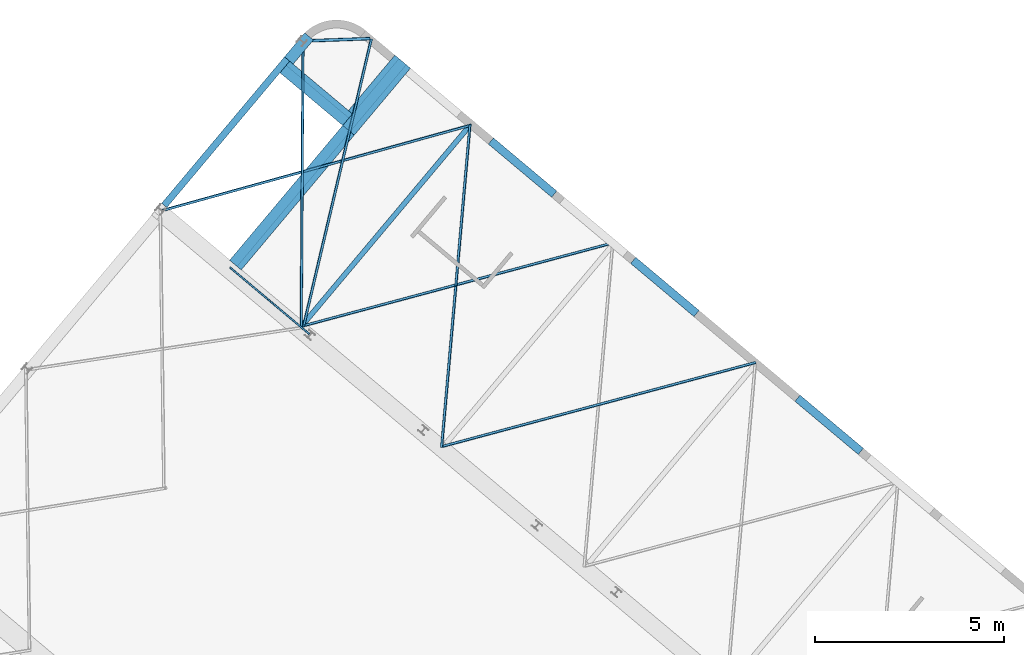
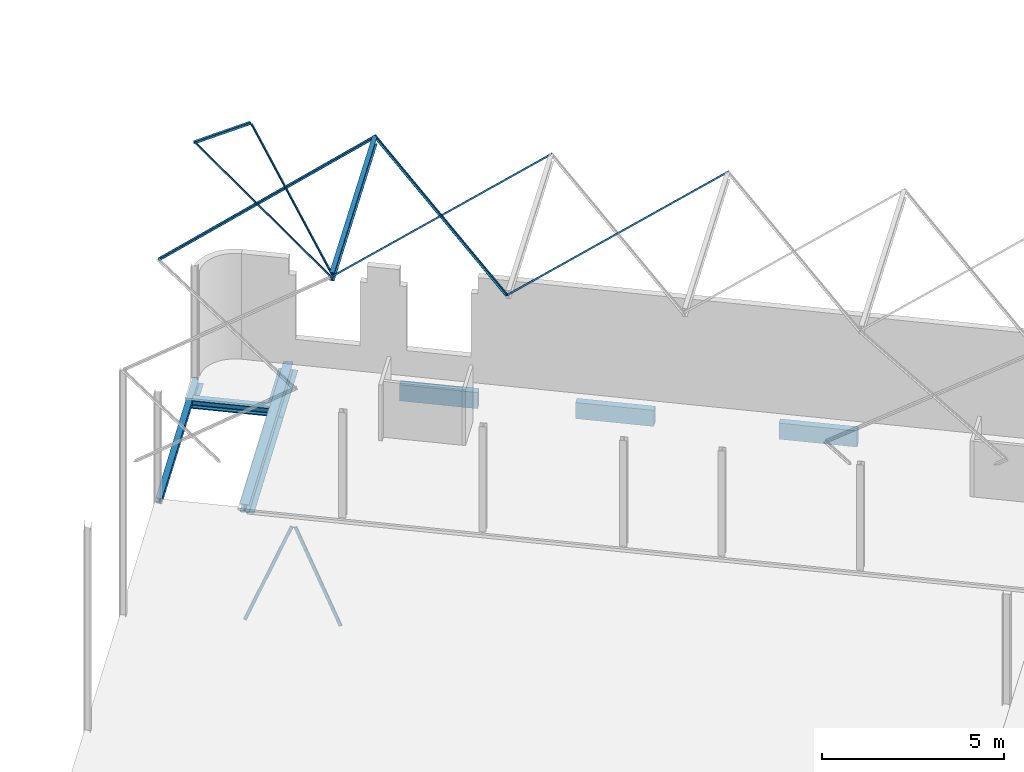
# One storey, part 17 of 25: 20 beams.
"""IFC2X3 building model written with IfcOpenShell, lengths in millimetres."""

from ifc_helpers import new_model, entity, si_unit, converted_unit, derived_unit, direction, frame, frame_2d, origin, place, context, subcontext, project, spatial, polyline, circle_curve, parameter, trimmed, segment, composite_curve, rectangle, i_section, outline, extrude, material, type_object, element, save


model = new_model("IFC2X3")

# Units and contexts
model_context = context("Model", 3, precision=0.01, world=origin(), true_north=direction((6.123031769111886e-17, 1.0)))
body_context = subcontext(model_context, "Body", "Model", "MODEL_VIEW")
ifc_project = project(units=[si_unit("LENGTHUNIT", "METRE", prefix="MILLI"), si_unit("AREAUNIT", "SQUARE_METRE"), si_unit("VOLUMEUNIT", "CUBIC_METRE"), derived_unit("MASSDENSITYUNIT", [(si_unit("MASSUNIT", "GRAM", prefix="KILO"), 1), (si_unit("LENGTHUNIT", "METRE"), -3)]), si_unit("MASSUNIT", "GRAM", prefix="KILO"), converted_unit("PLANEANGLEUNIT", "DEGREE", entity("IfcPlaneAngleMeasure", 0.017453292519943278), si_unit("PLANEANGLEUNIT", "RADIAN"), dimensions=[0, 0, 0, 0, 0, 0, 0])], contexts=[model_context])

# Site, building, storey
site_placement = place(None, origin())
site = spatial("IfcSite", under=ifc_project, at=site_placement, Name="Default", CompositionType="ELEMENT")
building_placement = place(site_placement, origin())
building = spatial("IfcBuilding", under=site, at=building_placement, Name="AT constructie", CompositionType="ELEMENT")
storey_placement = place(building_placement, frame((0.0, 0.0, 3864.0)))
storey = spatial("IfcBuildingStorey", under=building, at=storey_placement, Name="01 eerste verdieping", CompositionType="ELEMENT", Elevation=3864.0)

# Beams
ifc_material_1 = material(Name="f2_beton_prefab_gen")
beam_type_1 = type_object("IfcBeamType", Name="balk vierkant_gen_214x544 pbl", PredefinedType="NOTDEFINED")
beam_1_placement = place(storey_placement, frame((29514.597322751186, 54981.162075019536, 0.0), z_axis=(0.0, 0.0, 1.0), x_axis=(0.7660444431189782, -0.6427876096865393, 0.0)))
element("IfcBeam", 1, at=beam_1_placement, inside=storey, type_object=beam_type_1, material=ifc_material_1, Name="NLRS_28_SF_LIB_balk vierkant prefab_gen_AT:balk vierkant_gen_214x544 pbl", ObjectType="NLRS_28_SF_LIB_balk vierkant prefab_gen_AT:balk vierkant_gen_214x544 pbl", context=body_context, shape_type="SweptSolid", body=[
    extrude(rectangle(XDim=544.0000000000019, YDim=213.9999999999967, at=frame_2d((0.0, 4.710898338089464e-12), x_axis=(1.0, 0.0))), frame((-190.0, -107.0, -642.0), z_axis=(1.0, 0.0, 0.0), x_axis=(0.0, 0.0, -1.0)), (0.0, 0.0, 1.0), 2190.000000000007),
])
beam_2_placement = place(storey_placement, frame((33283.53598289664, 51818.6470353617, 0.0), z_axis=(0.0, 0.0, 1.0), x_axis=(0.7660444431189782, -0.6427876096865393, 0.0)))
element("IfcBeam", 2, at=beam_2_placement, inside=storey, type_object=beam_type_1, material=ifc_material_1, Name="NLRS_28_SF_LIB_balk vierkant prefab_gen_AT:balk vierkant_gen_214x544 pbl", ObjectType="NLRS_28_SF_LIB_balk vierkant prefab_gen_AT:balk vierkant_gen_214x544 pbl", context=body_context, shape_type="SweptSolid", body=[
    extrude(rectangle(XDim=544.0000000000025, YDim=213.9999999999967, at=frame_2d((2.8421709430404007e-13, 4.710898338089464e-12), x_axis=(1.0, 0.0))), frame((-190.0, -107.0, -642.0), z_axis=(1.0, 0.0, 0.0), x_axis=(0.0, 0.0, -1.0)), (0.0, 0.0, 1.0), 2190.000000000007),
])
beam_3_placement = place(storey_placement, frame((37634.66721355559, 48167.614424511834, 0.0), z_axis=(0.0, 0.0, 1.0), x_axis=(0.7660444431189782, -0.6427876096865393, 0.0)))
element("IfcBeam", 3, at=beam_3_placement, inside=storey, type_object=beam_type_1, material=ifc_material_1, Name="NLRS_28_SF_LIB_balk vierkant prefab_gen_AT:balk vierkant_gen_214x544 pbl", ObjectType="NLRS_28_SF_LIB_balk vierkant prefab_gen_AT:balk vierkant_gen_214x544 pbl", context=body_context, shape_type="SweptSolid", body=[
    extrude(rectangle(XDim=544.0000000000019, YDim=213.9999999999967, at=frame_2d((0.0, 4.710898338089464e-12), x_axis=(1.0, 0.0))), frame((-190.0, -107.0, -642.0), z_axis=(1.0, 0.0, 0.0), x_axis=(0.0, 0.0, -1.0)), (0.0, 0.0, 1.0), 2190.00000000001),
])
ifc_material_2 = material(Name="h2_staal_S355")
beam_type_2 = type_object("IfcBeamType", Name="balk HE_gen_HEB260", PredefinedType="NOTDEFINED")
beam_4_placement = place(storey_placement, frame((23728.97497160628, 56984.866142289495, 0.0), z_axis=(0.0, 0.0, 1.0), x_axis=(0.7660444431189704, -0.6427876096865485, 0.0)))
element("IfcBeam", 4, at=beam_4_placement, inside=storey, type_object=beam_type_2, material=ifc_material_2, Name="NLRS_28_SF_LIB_balk HEB_gen_AT:balk HE_gen_HEB260", ObjectType="NLRS_28_SF_LIB_balk HEB_gen_AT:balk HE_gen_HEB260", context=body_context, shape_type="SweptSolid", body=[
    extrude(i_section(OverallWidth=259.9999999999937, OverallDepth=259.9999999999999, WebThickness=10.000000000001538, FlangeThickness=17.49999999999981, FilletRadius=23.999999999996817, at=frame_2d((2.7000623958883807e-13, 0.0), x_axis=(0.0, 1.0))), frame((90.0, 0.0, -240.0), z_axis=(1.0, 0.0, 0.0), x_axis=(0.0, 0.0, -1.0)), (0.0, 0.0, 1.0), 2169.9999999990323),
])
beam_5_placement = place(storey_placement, frame((26963.669327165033, 57121.644815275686, 0.0), z_axis=(0.0, 0.0, 1.0), x_axis=(-0.6427876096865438, -0.7660444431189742, 0.0)))
element("IfcBeam", 5, at=beam_5_placement, inside=storey, type_object=beam_type_2, material=ifc_material_2, Name="NLRS_28_SF_LIB_balk HEB_gen_AT:balk HE_gen_HEB260", ObjectType="NLRS_28_SF_LIB_balk HEB_gen_AT:balk HE_gen_HEB260", context=body_context, shape_type="SweptSolid", body=[
    extrude(i_section(OverallWidth=260.00000000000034, OverallDepth=259.9999999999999, WebThickness=9.999999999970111, FlangeThickness=17.49999999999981, FilletRadius=23.999999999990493, at=frame_2d((8.100187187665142e-13, 0.0), x_axis=(0.0, 1.0))), frame((0.0, 0.0, -240.0), z_axis=(1.0, 0.0, 0.0), x_axis=(0.0, 0.0, -1.0)), (0.0, 0.0, 1.0), 6975.000000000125),
])
beam_type_3 = type_object("IfcBeamType", Name="balk strip liggend_gen_400x15", PredefinedType="NOTDEFINED")
beam_6_placement = place(storey_placement, frame((23773.970104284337, 57038.48925330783, 0.0), z_axis=(0.0, 0.0, 1.0), x_axis=(0.7660444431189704, -0.6427876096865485, 0.0)))
element("IfcBeam", 6, at=beam_6_placement, inside=storey, type_object=beam_type_3, material=ifc_material_2, Name="NLRS_28_SF_LIB_balk strip_gen_AT:balk strip liggend_gen_400x15", ObjectType="NLRS_28_SF_LIB_balk strip_gen_AT:balk strip liggend_gen_400x15", context=body_context, shape_type="SweptSolid", body=[
    extrude(rectangle(XDim=14.999999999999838, YDim=400.0000000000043, at=frame_2d((0.0, 3.311129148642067e-12), x_axis=(1.0, 0.0))), frame((90.0, 0.0, -377.50000000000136), z_axis=(1.0, 0.0, 0.0), x_axis=(0.0, 0.0, -1.0)), (0.0, 0.0, 1.0), 2169.9999999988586),
])
beam_7_placement = place(storey_placement, frame((25529.88191241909, 55304.02284485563, 0.0), z_axis=(0.0, 0.0, 1.0), x_axis=(-0.6427876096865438, -0.7660444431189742, 0.0)))
element("IfcBeam", 7, at=beam_7_placement, inside=storey, type_object=beam_type_3, material=ifc_material_2, Name="NLRS_28_SF_LIB_balk strip_gen_AT:balk strip liggend_gen_400x15", ObjectType="NLRS_28_SF_LIB_balk strip_gen_AT:balk strip liggend_gen_400x15", context=body_context, shape_type="SweptSolid", body=[
    extrude(rectangle(XDim=14.999999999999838, YDim=399.9999999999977, at=frame_2d((0.0, 1.6484591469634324e-12), x_axis=(1.0, 0.0))), frame((0.0, 0.0, -377.50000000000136), z_axis=(1.0, 0.0, 0.0), x_axis=(0.0, 0.0, -1.0)), (0.0, 0.0, 1.0), 4661.000004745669),
])
beam_type_4 = type_object("IfcBeamType", Name="balk strip liggend_gen_300x15", PredefinedType="NOTDEFINED")
beam_8_placement = place(storey_placement, frame((23948.490291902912, 57153.13088611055, 0.0), z_axis=(0.0, 0.0, 1.0), x_axis=(0.6427876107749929, 0.7660444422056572, 0.0)))
element("IfcBeam", 8, at=beam_8_placement, inside=storey, type_object=beam_type_4, material=ifc_material_2, Name="NLRS_28_SF_LIB_balk strip_gen_AT:balk strip liggend_gen_300x15", ObjectType="NLRS_28_SF_LIB_balk strip_gen_AT:balk strip liggend_gen_300x15", context=body_context, shape_type="SweptSolid", body=[
    extrude(rectangle(XDim=14.999999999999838, YDim=300.00000000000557, at=frame_2d((0.0, -6.0822458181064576e-12), x_axis=(1.0, 0.0))), frame((0.0, 0.0, -377.5000000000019), z_axis=(1.0, 0.0, 0.0), x_axis=(0.0, 0.0, -1.0)), (0.0, 0.0, 1.0), 832.254358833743),
])
beam_type_5 = type_object("IfcBeamType", Name="balk strip liggend_gen_540x15", PredefinedType="NOTDEFINED")
beam_9_placement = place(storey_placement, frame((25476.25880140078, 55349.01797753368, 0.0), z_axis=(0.0, 0.0, 1.0), x_axis=(0.642787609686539, 0.7660444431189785, 0.0)))
element("IfcBeam", 9, at=beam_9_placement, inside=storey, type_object=beam_type_5, material=ifc_material_2, Name="NLRS_28_SF_LIB_balk strip_gen_AT:balk strip liggend_gen_540x15", ObjectType="NLRS_28_SF_LIB_balk strip_gen_AT:balk strip liggend_gen_540x15", context=body_context, shape_type="SweptSolid", body=[
    extrude(rectangle(XDim=14.999999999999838, YDim=540.0000000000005, at=frame_2d((0.0, -3.325340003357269e-12), x_axis=(1.0, 0.0))), frame((0.0, 0.0, -377.5000000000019), z_axis=(1.0, 0.0, 0.0), x_axis=(0.0, 0.0, -1.0)), (0.0, 0.0, 1.0), 2313.9999952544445),
])
beam_type_6 = type_object("IfcBeamType", Name="balk HE_gen_HEA180", PredefinedType="NOTDEFINED")
beam_10_placement = place(storey_placement, frame((20649.379530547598, 53314.747211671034, 0.0), z_axis=(0.0, 0.0, 1.0), x_axis=(0.6427876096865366, 0.7660444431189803, 0.0)))
element("IfcBeam", 10, at=beam_10_placement, inside=storey, type_object=beam_type_6, material=ifc_material_2, Name="NLRS_28_SF_LIB_balk HEA_gen_AT:balk HE_gen_HEA180", ObjectType="NLRS_28_SF_LIB_balk HEA_gen_AT:balk HE_gen_HEA180", context=body_context, shape_type="SweptSolid", body=[
    extrude(i_section(OverallWidth=179.99999999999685, OverallDepth=171.0000000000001, WebThickness=6.000000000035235, FlangeThickness=9.500000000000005, FilletRadius=15.000000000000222, at=frame_2d((0.0, -6.0964566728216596e-12), x_axis=(0.0, 1.0))), frame((0.0, 0.0, -284.4999999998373), z_axis=(1.0, 0.0, 0.0), x_axis=(0.0, 0.0, -1.0)), (0.0, 0.0, 1.0), 5893.254363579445),
])
beam_type_7 = type_object("IfcBeamType", Name="balk_gen_K100x50x4", PredefinedType="NOTDEFINED")
beam_11_placement = place(storey_placement, frame((23388.79613923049, 50833.346725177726, -572.4214516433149), z_axis=(0.9586345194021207, 0.07091725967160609, -0.2756639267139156), x_axis=(-0.2846398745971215, 0.23884121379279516, -0.9284045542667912)))
element("IfcBeam", 11, at=beam_11_placement, inside=storey, type_object=beam_type_7, material=ifc_material_2, Name="NLRS_28_SF_LIB_balk koker ongelijk_gen_AT:balk_gen_K100x50x4", ObjectType="NLRS_28_SF_LIB_balk koker ongelijk_gen_AT:balk_gen_K100x50x4", context=body_context, shape_type="SweptSolid", body=[
    extrude(outline(composite_curve([segment(trimmed(circle_curve(frame_2d((17.0, 42.0), x_axis=(1.0, 0.0)), 8.0), [parameter(359.99999999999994)], [parameter(89.99999999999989)], True, "PARAMETER"), True, "CONTINUOUS"), segment(polyline([(17.0, 50.0), (-17.0, 50.0)]), True, "CONTINUOUS"), segment(trimmed(circle_curve(frame_2d((-17.0, 42.0), x_axis=(1.0, 0.0)), 8.0), [parameter(90.00000000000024)], [parameter(180.00000000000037)], True, "PARAMETER"), True, "CONTINUOUS"), segment(polyline([(-25.0, 42.0), (-25.0, -42.0)]), True, "CONTINUOUS"), segment(trimmed(circle_curve(frame_2d((-17.0, -42.0), x_axis=(1.0, 0.0)), 8.0), [parameter(180.0)], [parameter(269.9999999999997)], True, "PARAMETER"), True, "CONTINUOUS"), segment(polyline([(-17.0, -50.0), (17.0, -50.0)]), True, "CONTINUOUS"), segment(trimmed(circle_curve(frame_2d((17.0, -42.0), x_axis=(1.0, 0.0)), 8.0), [parameter(270.00000000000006)], [parameter(2.544443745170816e-13)], True, "PARAMETER"), True, "CONTINUOUS"), segment(polyline([(25.0, -42.0), (25.0, 42.0)]), True, "CONTINUOUS")], self_intersect=False), holes=[composite_curve([segment(polyline([(-17.0, 46.0), (17.0, 46.0)]), True, "CONTINUOUS"), segment(trimmed(circle_curve(frame_2d((17.0, 42.0), x_axis=(1.0, 0.0)), 4.0), [parameter(0.0)], [parameter(90.00000000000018)], True, "PARAMETER"), False, "CONTINUOUS"), segment(polyline([(21.0, 42.0), (21.0, -42.0)]), True, "CONTINUOUS"), segment(trimmed(circle_curve(frame_2d((17.0, -42.0), x_axis=(1.0, 0.0)), 4.0), [parameter(269.9999999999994)], [parameter(359.9999999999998)], True, "PARAMETER"), False, "CONTINUOUS"), segment(polyline([(17.0, -46.0), (-17.0, -46.0)]), True, "CONTINUOUS"), segment(trimmed(circle_curve(frame_2d((-17.0, -42.0), x_axis=(1.0, 0.0)), 4.0), [parameter(180.00000000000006)], [parameter(269.9999999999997)], True, "PARAMETER"), False, "CONTINUOUS"), segment(polyline([(-21.0, -42.0), (-21.0, 42.0)]), True, "CONTINUOUS"), segment(trimmed(circle_curve(frame_2d((-17.0, 42.0), x_axis=(1.0, 0.0)), 4.0), [parameter(89.99999999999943)], [parameter(179.99999999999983)], True, "PARAMETER"), False, "CONTINUOUS")], self_intersect=False)]), frame((0.0, -33.52620819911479, 37.094384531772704), z_axis=(1.0, 0.0, 0.0), x_axis=(0.0, -0.7418876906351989, -0.6705241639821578)), (0.0, 0.0, 1.0), 3530.7396224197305),
])
beam_12_placement = place(storey_placement, frame((23535.111484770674, 50710.57357269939, -572.4581109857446), z_axis=(0.9588011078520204, 0.07062539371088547, 0.2751590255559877), x_axis=(0.28407822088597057, -0.2383699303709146, -0.9286976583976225)))
element("IfcBeam", 12, at=beam_12_placement, inside=storey, type_object=beam_type_7, material=ifc_material_2, Name="NLRS_28_SF_LIB_balk koker ongelijk_gen_AT:balk_gen_K100x50x4", ObjectType="NLRS_28_SF_LIB_balk koker ongelijk_gen_AT:balk_gen_K100x50x4", context=body_context, shape_type="SweptSolid", body=[
    extrude(outline(composite_curve([segment(polyline([(-42.0, -25.0), (42.0, -25.0)]), True, "CONTINUOUS"), segment(trimmed(circle_curve(frame_2d((42.0, -17.0), x_axis=(0.0, -1.0)), 8.0), [parameter(359.9999999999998)], [parameter(89.99999999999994)], True, "PARAMETER"), True, "CONTINUOUS"), segment(polyline([(50.0, -17.0), (50.0, 17.0)]), True, "CONTINUOUS"), segment(trimmed(circle_curve(frame_2d((42.0, 17.0), x_axis=(0.0, -1.0)), 8.0), [parameter(90.0000000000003)], [parameter(180.0)], True, "PARAMETER"), True, "CONTINUOUS"), segment(polyline([(42.0, 25.0), (-42.0, 25.0)]), True, "CONTINUOUS"), segment(trimmed(circle_curve(frame_2d((-42.0, 17.0), x_axis=(0.0, -1.0)), 8.0), [parameter(179.99999999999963)], [parameter(269.9999999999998)], True, "PARAMETER"), True, "CONTINUOUS"), segment(polyline([(-50.0, 17.0), (-50.0, -17.0)]), True, "CONTINUOUS"), segment(trimmed(circle_curve(frame_2d((-42.0, -17.0), x_axis=(0.0, -1.0)), 8.0), [parameter(270.0000000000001)], [parameter(5.088887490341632e-14)], True, "PARAMETER"), True, "CONTINUOUS")], self_intersect=False), holes=[composite_curve([segment(trimmed(circle_curve(frame_2d((-42.0, 17.0), x_axis=(0.0, -1.0)), 4.0), [parameter(180.00000000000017)], [parameter(270.00000000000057)], True, "PARAMETER"), False, "CONTINUOUS"), segment(polyline([(-42.0, 21.0), (42.0, 21.0)]), True, "CONTINUOUS"), segment(trimmed(circle_curve(frame_2d((42.0, 17.0), x_axis=(0.0, -1.0)), 4.0), [parameter(90.0000000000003)], [parameter(179.99999999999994)], True, "PARAMETER"), False, "CONTINUOUS"), segment(polyline([(46.0, 17.0), (46.0, -17.0)]), True, "CONTINUOUS"), segment(trimmed(circle_curve(frame_2d((42.0, -17.0), x_axis=(0.0, -1.0)), 4.0), [parameter(2.544443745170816e-13)], [parameter(90.00000000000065)], True, "PARAMETER"), False, "CONTINUOUS"), segment(polyline([(42.0, -21.0), (-42.0, -21.0)]), True, "CONTINUOUS"), segment(trimmed(circle_curve(frame_2d((-42.0, -17.0), x_axis=(0.0, -1.0)), 4.0), [parameter(269.99999999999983)], [parameter(0.0)], True, "PARAMETER"), False, "CONTINUOUS"), segment(polyline([(-46.0, -17.0), (-46.0, 17.0)]), True, "CONTINUOUS")], self_intersect=False)]), frame((0.0, 33.52038313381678, -37.099648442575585), z_axis=(1.0, 0.0, 0.0), x_axis=(0.0, 0.6704076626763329, -0.7419929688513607)), (0.0, 0.0, 1.0), 3412.2439070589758),
])
beam_type_8 = type_object("IfcBeamType", Name="balk IPE_gen_270", PredefinedType="NOTDEFINED")
beam_13_placement = place(storey_placement, frame((24323.06956026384, 50163.17718065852, 7999.44544442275), z_axis=(0.010283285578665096, 0.012255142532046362, 0.9998720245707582), x_axis=(0.6427053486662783, 0.7659464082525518, -0.015997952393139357)))
element("IfcBeam", 13, at=beam_13_placement, inside=storey, type_object=beam_type_8, material=ifc_material_2, Name="NLRS_28_SF_LIB_balk IPE_gen_AT:balk IPE_gen_270", ObjectType="NLRS_28_SF_LIB_balk IPE_gen_AT:balk IPE_gen_270", context=body_context, shape_type="SweptSolid", body=[
    extrude(outline(composite_curve([segment(polyline([(124.7999999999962, -67.5000000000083), (135.0, -67.50000000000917)]), True, "CONTINUOUS"), segment(polyline([(135.0, -67.50000000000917), (135.0, 67.49999999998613)]), True, "CONTINUOUS"), segment(polyline([(135.0, 67.49999999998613), (124.80000000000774, 67.49999999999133)]), True, "CONTINUOUS"), segment(polyline([(124.80000000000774, 67.49999999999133), (124.80000000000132, 18.299999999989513)]), True, "CONTINUOUS"), segment(trimmed(circle_curve(frame_2d((109.80000000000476, 18.299999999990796), x_axis=(1.0, 0.0)), 14.999999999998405), [parameter(269.9999999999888)], [parameter(0.0)], True, "PARAMETER"), False, "CONTINUOUS"), segment(polyline([(109.79999999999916, 3.2999999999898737), (-109.79999999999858, 3.3000000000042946)]), True, "CONTINUOUS"), segment(trimmed(circle_curve(frame_2d((-109.79999999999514, 18.300000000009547), x_axis=(0.0, -1.0)), 15.00000000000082), [parameter(270.000000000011)], [parameter(0.0)], True, "PARAMETER"), False, "CONTINUOUS"), segment(polyline([(-124.79999999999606, 18.30000000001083), (-124.79999999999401, 67.50000000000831)]), True, "CONTINUOUS"), segment(polyline([(-124.79999999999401, 67.50000000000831), (-135.0, 67.50000000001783)]), True, "CONTINUOUS"), segment(polyline([(-135.0, 67.50000000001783), (-135.0, -67.49999999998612)]), True, "CONTINUOUS"), segment(polyline([(-135.0, -67.49999999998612), (-124.80000000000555, -67.49999999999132)]), True, "CONTINUOUS"), segment(polyline([(-124.80000000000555, -67.49999999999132), (-124.79999999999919, -18.299999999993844)]), True, "CONTINUOUS"), segment(trimmed(circle_curve(frame_2d((-109.79999999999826, -18.299999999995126), x_axis=(-1.0, 0.0)), 15.000000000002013), [parameter(270.00000000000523)], [parameter(0.0)], True, "PARAMETER"), False, "CONTINUOUS"), segment(polyline([(-109.79999999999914, -3.299999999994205), (109.80000000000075, -3.300000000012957)]), True, "CONTINUOUS"), segment(trimmed(circle_curve(frame_2d((109.79999999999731, -18.300000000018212), x_axis=(0.0, 1.0)), 15.000000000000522), [parameter(270.000000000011)], [parameter(0.0)], True, "PARAMETER"), False, "CONTINUOUS"), segment(polyline([(124.79999999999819, -18.30000000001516), (124.7999999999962, -67.5000000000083)]), True, "CONTINUOUS")], self_intersect=False)), frame((14.860000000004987, 0.0, -135.0), z_axis=(1.0, 0.0, 0.0), x_axis=(0.0, 0.0, -1.0)), (0.0, 0.0, 1.0), 6830.20166621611),
])
beam_type_9 = type_object("IfcBeamType", Name="balk_gen_K80x80x4", PredefinedType="NOTDEFINED")
beam_14_placement = place(storey_placement, frame((24283.050141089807, 57667.74521157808, 7907.875706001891), z_axis=(0.01071002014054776, 0.0003843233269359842, 0.9999425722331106), x_axis=(0.9992993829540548, 0.03585932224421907, -0.01071691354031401)))
element("IfcBeam", 14, at=beam_14_placement, inside=storey, type_object=beam_type_9, material=ifc_material_2, Name="NLRS_28_SF_LIB_balk koker vierkant_gen_AT:balk_gen_K80x80x4", ObjectType="NLRS_28_SF_LIB_balk koker vierkant_gen_AT:balk_gen_K80x80x4", context=body_context, shape_type="SweptSolid", body=[
    extrude(outline(composite_curve([segment(polyline([(-31.0, -40.0), (31.0, -40.0)]), True, "CONTINUOUS"), segment(trimmed(circle_curve(frame_2d((31.0, -31.0), x_axis=(0.0, -1.0)), 9.0), [parameter(359.9999999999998)], [parameter(89.99999999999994)], True, "PARAMETER"), True, "CONTINUOUS"), segment(polyline([(40.0, -31.0), (40.0, 31.0)]), True, "CONTINUOUS"), segment(trimmed(circle_curve(frame_2d((31.0, 31.0), x_axis=(0.0, -1.0)), 9.0), [parameter(90.0000000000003)], [parameter(180.00000000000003)], True, "PARAMETER"), True, "CONTINUOUS"), segment(polyline([(31.0, 40.0), (-31.0, 40.0)]), True, "CONTINUOUS"), segment(trimmed(circle_curve(frame_2d((-31.0, 31.0), x_axis=(0.0, -1.0)), 9.0), [parameter(179.99999999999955)], [parameter(269.9999999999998)], True, "PARAMETER"), True, "CONTINUOUS"), segment(polyline([(-40.0, 31.0), (-40.0, -31.0)]), True, "CONTINUOUS"), segment(trimmed(circle_curve(frame_2d((-31.0, -31.0), x_axis=(0.0, -1.0)), 9.0), [parameter(270.0000000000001)], [parameter(1.0177774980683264e-13)], True, "PARAMETER"), True, "CONTINUOUS")], self_intersect=False), holes=[composite_curve([segment(trimmed(circle_curve(frame_2d((-31.0, 31.0), x_axis=(0.0, -1.0)), 5.0), [parameter(180.0000000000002)], [parameter(270.0000000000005)], True, "PARAMETER"), False, "CONTINUOUS"), segment(polyline([(-31.0, 36.0), (31.0, 36.0)]), True, "CONTINUOUS"), segment(trimmed(circle_curve(frame_2d((31.0, 31.0), x_axis=(0.0, -1.0)), 5.0), [parameter(90.0000000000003)], [parameter(179.99999999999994)], True, "PARAMETER"), False, "CONTINUOUS"), segment(polyline([(36.0, 31.0), (36.0, -31.0)]), True, "CONTINUOUS"), segment(trimmed(circle_curve(frame_2d((31.0, -31.0), x_axis=(0.0, -1.0)), 5.0), [parameter(2.0355549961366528e-13)], [parameter(90.00000000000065)], True, "PARAMETER"), False, "CONTINUOUS"), segment(polyline([(31.0, -36.0), (-31.0, -36.0)]), True, "CONTINUOUS"), segment(trimmed(circle_curve(frame_2d((-31.0, -31.0), x_axis=(0.0, -1.0)), 5.0), [parameter(269.99999999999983)], [parameter(1.5266662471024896e-13)], True, "PARAMETER"), False, "CONTINUOUS"), segment(polyline([(-36.0, -31.0), (-36.0, 31.0)]), True, "CONTINUOUS")], self_intersect=False)]), frame((0.0, -0.7127092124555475, -59.995766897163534), z_axis=(1.0, 0.0, 0.0), x_axis=(0.0, -0.011878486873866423, -0.9999294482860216)), (0.0, 0.0, 1.0), 1820.3054496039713),
])
beam_type_10 = type_object("IfcBeamType", Name="balk_gen_L70x70x7", PredefinedType="NOTDEFINED")
beam_15_placement = place(storey_placement, frame((20554.671889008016, 53197.989730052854, 8001.005093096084), z_axis=(0.012702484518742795, 0.0035152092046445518, 0.9999131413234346), x_axis=(0.9636931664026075, 0.26668665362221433, -0.013179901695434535)))
element("IfcBeam", 15, at=beam_15_placement, inside=storey, type_object=beam_type_10, material=ifc_material_2, Name="NLRS_28_SF_LIB_balk hoeklijn_gen_AT:balk_gen_L70x70x7", ObjectType="NLRS_28_SF_LIB_balk hoeklijn_gen_AT:balk_gen_L70x70x7", context=body_context, shape_type="SweptSolid", body=[
    extrude(outline(composite_curve([segment(polyline([(-26.444444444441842, -26.44444444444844), (43.55555555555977, -26.444444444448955)]), True, "CONTINUOUS"), segment(polyline([(43.55555555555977, -26.444444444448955), (43.55555555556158, -23.944444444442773)]), True, "CONTINUOUS"), segment(trimmed(circle_curve(frame_2d((39.05555555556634, -23.944444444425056), x_axis=(1.0, 0.0)), 4.499999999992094), [parameter(0.0)], [parameter(90.00000000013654)], True, "PARAMETER"), True, "CONTINUOUS"), segment(polyline([(39.05555555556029, -19.444444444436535), (-10.444444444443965, -19.444444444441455)]), True, "CONTINUOUS"), segment(trimmed(circle_curve(frame_2d((-10.444444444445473, -10.444444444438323), x_axis=(0.0, -1.0)), 8.999999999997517), [parameter(269.99999999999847)], [parameter(0.0)], True, "PARAMETER"), False, "CONTINUOUS"), segment(polyline([(-19.444444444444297, -10.444444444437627), (-19.44444444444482, 39.055555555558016)]), True, "CONTINUOUS"), segment(trimmed(circle_curve(frame_2d((-23.944444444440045, 39.05555555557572), x_axis=(1.0, 0.0)), 4.499999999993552), [parameter(0.0)], [parameter(90.00000000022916)], True, "PARAMETER"), True, "CONTINUOUS"), segment(polyline([(-23.944444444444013, 43.55555555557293), (-26.4444444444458, 43.5555555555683)]), True, "CONTINUOUS"), segment(polyline([(-26.444444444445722, 43.55555555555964), (-26.444444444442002, -26.444444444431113)]), True, "CONTINUOUS")], self_intersect=False)), frame((0.0, -20.02000287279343, -63.37660882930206), z_axis=(1.0, 0.0, 0.0), x_axis=(0.0, 0.009068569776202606, 0.9999588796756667)), (0.0, 0.0, 1.0), 8534.62223891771),
])
beam_16_placement = place(storey_placement, frame((24248.50433363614, 50074.31380394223, 8001.301490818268), z_axis=(7.987257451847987e-05, 0.012321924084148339, 0.9999240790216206), x_axis=(0.006481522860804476, 0.9999030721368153, -0.012322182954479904)))
element("IfcBeam", 16, at=beam_16_placement, inside=storey, type_object=beam_type_10, material=ifc_material_2, Name="NLRS_28_SF_LIB_balk hoeklijn_gen_AT:balk_gen_L70x70x7", ObjectType="NLRS_28_SF_LIB_balk hoeklijn_gen_AT:balk_gen_L70x70x7", context=body_context, shape_type="SweptSolid", body=[
    extrude(outline(composite_curve([segment(polyline([(-26.44444444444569, -26.44444444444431), (43.555555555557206, -26.444444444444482)]), True, "CONTINUOUS"), segment(polyline([(43.55555555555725, -26.44444444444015), (43.55555555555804, -23.94444444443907)]), True, "CONTINUOUS"), segment(trimmed(circle_curve(frame_2d((39.05555555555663, -23.94444444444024), x_axis=(1.0, 0.0)), 4.499999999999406), [parameter(0.0)], [parameter(89.99999999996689)], True, "PARAMETER"), True, "CONTINUOUS"), segment(polyline([(39.05555555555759, -19.44444444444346), (-10.444444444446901, -19.44444444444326)]), True, "CONTINUOUS"), segment(trimmed(circle_curve(frame_2d((-10.444444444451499, -10.444444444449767), x_axis=(0.0, -1.0)), 8.99999999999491), [parameter(269.99999999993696)], [parameter(0.0)], True, "PARAMETER"), False, "CONTINUOUS"), segment(polyline([(-19.444444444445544, -10.444444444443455), (-19.44444444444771, 39.05555555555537)]), True, "CONTINUOUS"), segment(trimmed(circle_curve(frame_2d((-23.94444444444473, 39.05555555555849), x_axis=(1.0, 0.0)), 4.4999999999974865), [parameter(0.0)], [parameter(90.00000000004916)], True, "PARAMETER"), True, "CONTINUOUS"), segment(polyline([(-23.944444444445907, 43.555555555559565), (-26.444444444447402, 43.555555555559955)]), True, "CONTINUOUS"), segment(polyline([(-26.444444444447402, 43.555555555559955), (-26.44444444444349, -26.44444444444)]), True, "CONTINUOUS")], self_intersect=False)), frame((0.0, -18.79493472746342, -63.750650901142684), z_axis=(1.0, 0.0, 0.0), x_axis=(0.0, -0.010203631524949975, 0.9999479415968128)), (0.0, 0.0, 1.0), 7590.797685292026),
])
beam_17_placement = place(storey_placement, frame((28779.429018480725, 55474.05957487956, 7888.51961097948), z_axis=(0.0011496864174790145, 0.013059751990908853, 0.9999140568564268), x_axis=(-0.08768610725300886, -0.9960618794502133, 0.013110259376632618)))
element("IfcBeam", 17, at=beam_17_placement, inside=storey, type_object=beam_type_10, material=ifc_material_2, Name="NLRS_28_SF_LIB_balk hoeklijn_gen_AT:balk_gen_L70x70x7", ObjectType="NLRS_28_SF_LIB_balk hoeklijn_gen_AT:balk_gen_L70x70x7", context=body_context, shape_type="SweptSolid", body=[
    extrude(outline(composite_curve([segment(polyline([(-26.444444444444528, -26.444444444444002), (43.55555555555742, -26.44444444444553)]), True, "CONTINUOUS"), segment(polyline([(43.555555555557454, -26.44444444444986), (43.55555555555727, -23.944444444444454)]), True, "CONTINUOUS"), segment(trimmed(circle_curve(frame_2d((39.05555555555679, -23.944444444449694), x_axis=(1.0, 0.0)), 4.500000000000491), [parameter(0.0)], [parameter(89.99999999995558)], True, "PARAMETER"), True, "CONTINUOUS"), segment(polyline([(39.05555555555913, -19.44444444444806), (-10.444444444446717, -19.444444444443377)]), True, "CONTINUOUS"), segment(trimmed(circle_curve(frame_2d((-10.444444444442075, -10.444444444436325), x_axis=(0.0, -1.0)), 9.00000000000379), [parameter(270.00000000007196)], [parameter(0.0)], True, "PARAMETER"), False, "CONTINUOUS"), segment(polyline([(-19.4444444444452, -10.444444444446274), (-19.444444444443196, 39.05555555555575)]), True, "CONTINUOUS"), segment(trimmed(circle_curve(frame_2d((-23.944444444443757, 39.055555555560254), x_axis=(1.0, 0.0)), 4.5000000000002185), [parameter(0.0)], [parameter(90.00000000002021)], True, "PARAMETER"), True, "CONTINUOUS"), segment(polyline([(-23.94444444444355, 43.555555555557), (-26.44444444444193, 43.55555555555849)]), True, "CONTINUOUS"), segment(polyline([(-26.44444444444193, 43.55555555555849), (-26.444444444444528, -26.444444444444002)]), True, "CONTINUOUS")], self_intersect=False)), frame((0.0, -20.026366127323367, -63.374598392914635), z_axis=(1.0, 0.0, 0.0), x_axis=(0.0, 0.00916897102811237, 0.9999579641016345)), (0.0, 0.0, 1.0), 8602.566631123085),
])
beam_18_placement = place(storey_placement, frame((32549.715137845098, 52297.593136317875, 7888.676751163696), z_axis=(0.012658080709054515, 0.00339005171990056, 0.9999141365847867), x_axis=(-0.9658747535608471, -0.2586778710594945, 0.01310417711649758)))
element("IfcBeam", 18, at=beam_18_placement, inside=storey, type_object=beam_type_10, material=ifc_material_2, Name="NLRS_28_SF_LIB_balk hoeklijn_gen_AT:balk_gen_L70x70x7", ObjectType="NLRS_28_SF_LIB_balk hoeklijn_gen_AT:balk_gen_L70x70x7", context=body_context, shape_type="SweptSolid", body=[
    extrude(outline(composite_curve([segment(polyline([(-26.444444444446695, -26.444444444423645), (43.55555555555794, -26.44444444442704)]), True, "CONTINUOUS"), segment(polyline([(43.55555555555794, -26.44444444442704), (43.555555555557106, -23.94444444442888)]), True, "CONTINUOUS"), segment(trimmed(circle_curve(frame_2d((39.05555555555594, -23.94444444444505), x_axis=(1.0, 0.0)), 4.500000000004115), [parameter(0.0)], [parameter(89.99999999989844)], True, "PARAMETER"), True, "CONTINUOUS"), segment(polyline([(39.0555555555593, -19.444444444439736), (-10.444444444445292, -19.444444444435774)]), True, "CONTINUOUS"), segment(trimmed(circle_curve(frame_2d((-10.444444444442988, -10.444444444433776), x_axis=(0.0, -1.0)), 9.00000000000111), [parameter(270.000000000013)], [parameter(0.0)], True, "PARAMETER"), False, "CONTINUOUS"), segment(polyline([(-19.444444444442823, -10.44444444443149), (-19.444444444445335, 39.055555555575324)]), True, "CONTINUOUS"), segment(trimmed(circle_curve(frame_2d((-23.944444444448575, 39.055555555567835), x_axis=(1.0, 0.0)), 4.500000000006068), [parameter(0.0)], [parameter(89.99999999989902)], True, "PARAMETER"), True, "CONTINUOUS"), segment(polyline([(-23.944444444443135, 43.55555555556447), (-26.444444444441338, 43.5555555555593)]), True, "CONTINUOUS"), segment(polyline([(-26.44444444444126, 43.55555555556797), (-26.444444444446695, -26.444444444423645)]), True, "CONTINUOUS")], self_intersect=False)), frame((0.0, -18.860334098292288, -63.731333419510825), z_axis=(1.0, 0.0, 0.0), x_axis=(0.0, -0.009177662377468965, 0.9999578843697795)), (0.0, 0.0, 1.0), 8594.567873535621),
])
beam_19_placement = place(storey_placement, frame((36326.31424242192, 49128.65022056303, 7888.676751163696), z_axis=(0.012658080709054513, 0.00339005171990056, 0.9999141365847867), x_axis=(-0.9658747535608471, -0.2586778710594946, 0.013104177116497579)))
element("IfcBeam", 19, at=beam_19_placement, inside=storey, type_object=beam_type_10, material=ifc_material_2, Name="NLRS_28_SF_LIB_balk hoeklijn_gen_AT:balk_gen_L70x70x7", ObjectType="NLRS_28_SF_LIB_balk hoeklijn_gen_AT:balk_gen_L70x70x7", context=body_context, shape_type="SweptSolid", body=[
    extrude(outline(composite_curve([segment(polyline([(-26.444444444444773, -26.44444444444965), (43.555555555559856, -26.444444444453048)]), True, "CONTINUOUS"), segment(polyline([(43.555555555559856, -26.444444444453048), (43.55555555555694, -23.944444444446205)]), True, "CONTINUOUS"), segment(trimmed(circle_curve(frame_2d((39.05555555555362, -23.944444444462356), x_axis=(1.0, 0.0)), 4.500000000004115), [parameter(0.0)], [parameter(89.99999999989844)], True, "PARAMETER"), True, "CONTINUOUS"), segment(polyline([(39.05555555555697, -19.44444444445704), (-10.444444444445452, -19.4444444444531)]), True, "CONTINUOUS"), segment(trimmed(circle_curve(frame_2d((-10.444444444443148, -10.4444444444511), x_axis=(0.0, -1.0)), 9.000000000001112), [parameter(270.000000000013)], [parameter(0.0)], True, "PARAMETER"), False, "CONTINUOUS"), segment(polyline([(-19.444444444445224, -10.444444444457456), (-19.444444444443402, 39.05555555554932)]), True, "CONTINUOUS"), segment(trimmed(circle_curve(frame_2d((-23.944444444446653, 39.05555555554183), x_axis=(1.0, 0.0)), 4.500000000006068), [parameter(0.0)], [parameter(89.99999999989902)], True, "PARAMETER"), True, "CONTINUOUS"), segment(polyline([(-23.944444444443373, 43.555555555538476), (-26.444444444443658, 43.555555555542)]), True, "CONTINUOUS"), segment(polyline([(-26.444444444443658, 43.555555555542), (-26.444444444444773, -26.44444444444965)]), True, "CONTINUOUS")], self_intersect=False)), frame((0.0, -18.860334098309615, -63.731333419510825), z_axis=(1.0, 0.0, 0.0), x_axis=(0.0, -0.009177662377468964, 0.9999578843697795)), (0.0, 0.0, 1.0), 8594.567873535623),
])
beam_20_placement = place(storey_placement, frame((24317.749665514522, 50151.7810745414, 7999.639836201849), z_axis=(0.0032835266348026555, 0.013908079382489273, 0.9998978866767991), x_axis=(0.22974765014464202, 0.9731453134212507, -0.014290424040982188)))
element("IfcBeam", 20, at=beam_20_placement, inside=storey, type_object=beam_type_10, material=ifc_material_2, Name="NLRS_28_SF_LIB_balk hoeklijn_gen_AT:balk_gen_L70x70x7", ObjectType="NLRS_28_SF_LIB_balk hoeklijn_gen_AT:balk_gen_L70x70x7", context=body_context, shape_type="SweptSolid", body=[
    extrude(outline(composite_curve([segment(polyline([(-26.44444444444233, -26.444444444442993), (43.555555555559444, -26.444444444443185)]), True, "CONTINUOUS"), segment(polyline([(43.55555555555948, -26.444444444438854), (43.5555555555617, -23.944444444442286)]), True, "CONTINUOUS"), segment(trimmed(circle_curve(frame_2d((39.0555555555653, -23.944444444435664), x_axis=(1.0, 0.0)), 4.499999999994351), [parameter(0.0)], [parameter(90.0000000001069)], True, "PARAMETER"), True, "CONTINUOUS"), segment(polyline([(39.05555555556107, -19.444444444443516), (-10.4444444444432, -19.44444444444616)]), True, "CONTINUOUS"), segment(trimmed(circle_curve(frame_2d((-10.44444444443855, -10.444444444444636), x_axis=(0.0, -1.0)), 9.000000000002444), [parameter(270.00000000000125)], [parameter(0.0)], True, "PARAMETER"), False, "CONTINUOUS"), segment(polyline([(-19.4444444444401, -10.444444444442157), (-19.44444444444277, 39.05555555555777)]), True, "CONTINUOUS"), segment(trimmed(circle_curve(frame_2d((-23.94444444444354, 39.05555555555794), x_axis=(1.0, 0.0)), 4.499999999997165), [parameter(0.0)], [parameter(90.00000000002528)], True, "PARAMETER"), True, "CONTINUOUS"), segment(polyline([(-23.94444444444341, 43.55555555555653), (-26.444444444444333, 43.55555555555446)]), True, "CONTINUOUS"), segment(polyline([(-26.444444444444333, 43.55555555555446), (-26.44444444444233, -26.444444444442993)]), True, "CONTINUOUS")], self_intersect=False)), frame((0.0, -18.98683246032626, -63.69376150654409), z_axis=(1.0, 0.0, 0.0), x_axis=(0.0, -0.007192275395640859, 0.9999741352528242)), (0.0, 0.0, 1.0), 7786.485971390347),
])

save(model, "model.ifc")
